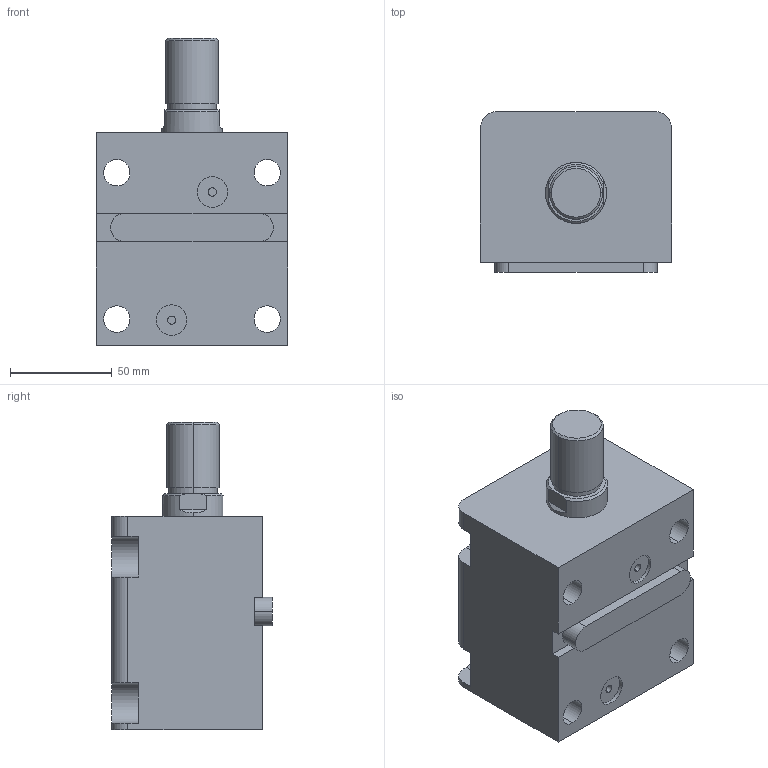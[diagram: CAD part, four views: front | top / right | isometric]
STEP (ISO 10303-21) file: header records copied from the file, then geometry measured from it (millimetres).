
FILE_DESCRIPTION (( 'STEP AP203' ), '1' );
FILE_NAME ('HTB-LAM50-45W.STEP', '2023-03-20T00:54:48', ( '微软用户' ), ( '微软中国' ), 'SwSTEP 2.0', 'SolidWorks 2012', '' );
FILE_SCHEMA (( 'CONFIG_CONTROL_DESIGN' ));
Length unit declared in the file: millimetre
Products named in the file (4): HTB-LAM50-45W; HTB-LWM50-瑩; HTB-LAM50-45W活塞杆; HTB-LAM50-45掛极
Assembly tree (3 placements, depth 2):
  HTB-LAM50-45W
    HTB-LAM50-45掛极
    HTB-LAM50-45W活塞杆
    HTB-LWM50-瑩
Bounding box: 94 x 79 x 151 mm (x, y, z)
Volume: 650242.2 mm3; surface area: 97488.5 mm2
Topology: 3 solids, 3 shells, 90 faces, 219 edges, 144 vertices
Faces by surface type: cylinder 41, plane 41, cone 4, torus 4
Entity records: 3107 total; most frequent: DIRECTION 497, CARTESIAN_POINT 487, ORIENTED_EDGE 438, EDGE_CURVE 219, AXIS2_PLACEMENT_3D 190, VERTEX_POINT 144, LINE 117, VECTOR 117
